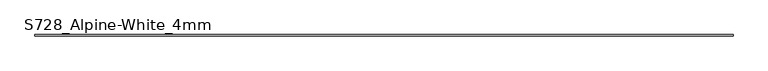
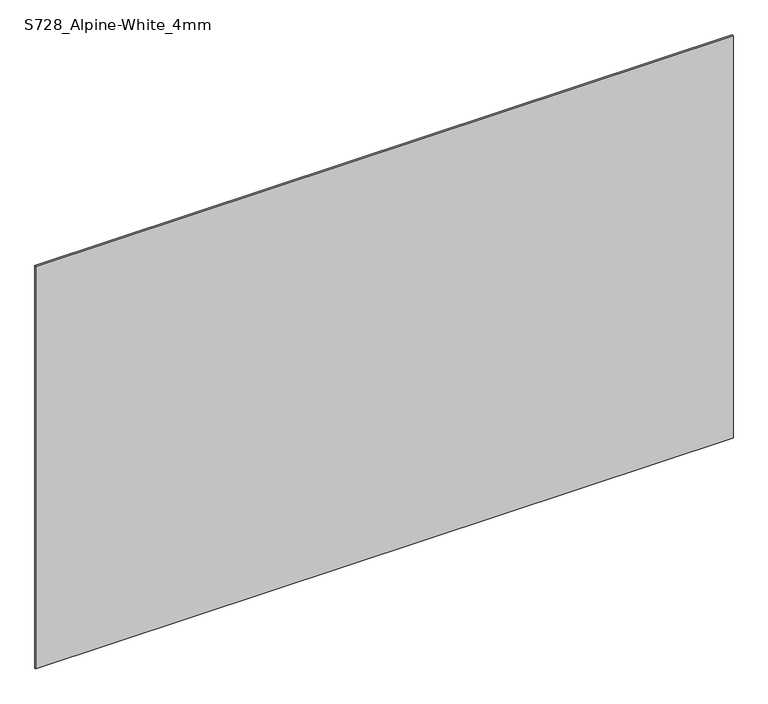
"""IFC4 building model written with IfcOpenShell, lengths in millimetres: plate geometry, Curtain-Panels_Outdoor-Material_HI-MACS_Solids : S728_Alpine-White_4mm."""

import ifcopenshell
import ifcopenshell.guid

model = None  # the IFC model being written
_history = None  # IfcOwnerHistory: only IFC2X3 demands one
_inside = {}  # id of a spatial element -> (the spatial element, [elements in it])
_under = {}  # id of a project, library or spatial element -> (it, [spatial elements below it])
_declared = {}  # id of a project -> (the project, [libraries it declares])
_typed = {}  # id of a type object -> (the type object, [elements of that type])
_made_of = {}  # id of a material, layer set ... -> (it, [elements and type objects made of it])


def new_model(schema):
    """Start an empty IFC model of exactly this schema.

    Asked for "IFC4X3", IfcOpenShell would pick the latest addendum, in which some entities
    have other attributes; the version numbers below select the first issue.
    IFC2X3 requires an IfcOwnerHistory on every rooted entity: one is made here for all.
    """
    global model, _history
    if schema == "IFC4X3":
        model = ifcopenshell.file(schema_version=(4, 3, 0, 0))
    else:
        model = ifcopenshell.file(schema=schema)
    _inside.clear()
    _under.clear()
    _declared.clear()
    _typed.clear()
    _made_of.clear()
    _history = None
    if model.schema == "IFC2X3":
        org = make("IfcOrganization", Name="unknown")
        user = make(
            "IfcPersonAndOrganization",
            ThePerson=make("IfcPerson", FamilyName="unknown"),
            TheOrganization=org,
        )
        app = make(
            "IfcApplication",
            ApplicationDeveloper=org,
            Version="unknown",
            ApplicationFullName="unknown",
            ApplicationIdentifier="unknown",
        )
        _history = make(
            "IfcOwnerHistory",
            OwningUser=user,
            OwningApplication=app,
            ChangeAction="ADDED",
            CreationDate=0,
        )
    return model


def make(cls, **values):
    """One entity of the class cls with the attributes given. An attribute that is None is left unset."""
    return model.create_entity(
        cls, **{name: value for name, value in values.items() if value is not None}
    )


def rooted(cls, **values):
    """An entity with a GlobalId (a new one), such as an element, a storey or a relation."""
    return make(cls, GlobalId=ifcopenshell.guid.new(), OwnerHistory=_history, **values)


def si_unit(unit_type, name, prefix=None):
    """IfcSIUnit, for example si_unit("LENGTHUNIT", "METRE", prefix="MILLI")."""
    return make("IfcSIUnit", UnitType=unit_type, Prefix=prefix, Name=name)


def assignment(units):
    """IfcUnitAssignment: the units of a project."""
    return None if units is None else make("IfcUnitAssignment", Units=units)


def point(xyz):
    """IfcCartesianPoint."""
    return None if xyz is None else make("IfcCartesianPoint", Coordinates=xyz)


def direction(xyz):
    """IfcDirection."""
    return None if xyz is None else make("IfcDirection", DirectionRatios=xyz)


def frame(location, z_axis=None, x_axis=None):
    """IfcAxis2Placement3D, a coordinate frame: its origin and axes. An axis left out is left unset."""
    return make(
        "IfcAxis2Placement3D",
        Location=point(location),
        Axis=direction(z_axis),
        RefDirection=direction(x_axis),
    )


def origin():
    """The frame at (0, 0, 0) with its axes left unset."""
    return frame((0.0, 0.0, 0.0))


def origin_with_axes():
    """The frame at (0, 0, 0) with the z axis (0, 0, 1) and the x axis (1, 0, 0) written out."""
    return frame((0.0, 0.0, 0.0), z_axis=(0.0, 0.0, 1.0), x_axis=(1.0, 0.0, 0.0))


def place(relative_to, where):
    """IfcLocalPlacement: puts the frame where relative to a parent placement (None: the world)."""
    return make(
        "IfcLocalPlacement", PlacementRelTo=relative_to, RelativePlacement=where
    )


def context(
    kind, dimensions, precision=None, world=None, true_north=None, identifier=None
):
    """IfcGeometricRepresentationContext, for example the 3D "Model" context."""
    return make(
        "IfcGeometricRepresentationContext",
        ContextIdentifier=identifier,
        ContextType=kind,
        CoordinateSpaceDimension=dimensions,
        Precision=precision,
        WorldCoordinateSystem=world,
        TrueNorth=true_north,
    )


def project(units=None, contexts=None):
    """IfcProject with its units and contexts."""
    return rooted(
        "IfcProject",
        Name="project",
        RepresentationContexts=contexts,
        UnitsInContext=assignment(units),
    )


def spatial(cls, under=None, at=None, **own):
    """A site, building, storey or space (cls), placed at a placement, below another one or the project."""
    s = rooted(cls, ObjectPlacement=at, **own)
    if under is not None:
        _under.setdefault(under.id(), (under, []))[1].append(s)
    return s


def polyline(points):
    """IfcPolyline through the points."""
    return make("IfcPolyline", Points=[point(p) for p in points])


def outline(outer, holes=None, kind="AREA"):
    """IfcArbitraryClosedProfileDef: a profile drawn as a closed curve; with holes, ...WithVoids."""
    if holes is None:
        return make("IfcArbitraryClosedProfileDef", ProfileType=kind, OuterCurve=outer)
    return make(
        "IfcArbitraryProfileDefWithVoids",
        ProfileType=kind,
        OuterCurve=outer,
        InnerCurves=holes,
    )


def extrude(swept, where, along, depth):
    """IfcExtrudedAreaSolid: the profile swept, set in the frame where, extruded along a direction by depth."""
    return make(
        "IfcExtrudedAreaSolid",
        SweptArea=swept,
        Position=where,
        ExtrudedDirection=direction(along),
        Depth=depth,
    )


def shape(context_of_items, identifier, shape_type, items):
    """IfcShapeRepresentation: the items that make up one representation, for example the "Body"."""
    return make(
        "IfcShapeRepresentation",
        ContextOfItems=context_of_items,
        RepresentationIdentifier=identifier,
        RepresentationType=shape_type,
        Items=items,
    )


def source(mapping_origin, context_of_items, identifier, shape_type, items):
    """IfcRepresentationMap: a shape defined once, which mapped items show again and again."""
    return make(
        "IfcRepresentationMap",
        MappingOrigin=mapping_origin,
        MappedRepresentation=shape(context_of_items, identifier, shape_type, items),
    )


def transform(
    local_origin,
    x_axis=None,
    y_axis=None,
    z_axis=None,
    scale=None,
    scale2=None,
    scale3=None,
    uniform=True,
):
    """IfcCartesianTransformationOperator3D, or its non-uniform kind. x_axis, y_axis, z_axis: its Axis1, 2, 3."""
    if uniform:
        return make(
            "IfcCartesianTransformationOperator3D",
            Axis1=direction(x_axis),
            Axis2=direction(y_axis),
            LocalOrigin=point(local_origin),
            Scale=scale,
            Axis3=direction(z_axis),
        )
    return make(
        "IfcCartesianTransformationOperator3DnonUniform",
        Axis1=direction(x_axis),
        Axis2=direction(y_axis),
        LocalOrigin=point(local_origin),
        Scale=scale,
        Axis3=direction(z_axis),
        Scale2=scale2,
        Scale3=scale3,
    )


def mapped(mapping_source, mapping_target):
    """IfcMappedItem: shows the shape of a source again, moved by a transform."""
    return make(
        "IfcMappedItem", MappingSource=mapping_source, MappingTarget=mapping_target
    )


def made_of(thing, what):
    """Note that an element or type object is made of a material, layer set ...; save() writes the relation."""
    if what is not None:
        _made_of.setdefault(what.id(), (what, []))[1].append(thing)
    return thing


def element(
    cls,
    number,
    at=None,
    inside=None,
    cuts=None,
    type_object=None,
    material=None,
    context=None,
    identifier="Body",
    shape_type=None,
    held_by="IfcProductDefinitionShape",
    body=None,
    shapes=None,
    **own,
):
    """One element of the class cls, such as IfcWall. Its Tag is "e" and its number.

    at: its placement. inside: the storey or other place that contains it. cuts: it is an
    opening in that element (IfcRelVoidsElement). A single representation is given by context,
    identifier, shape_type and body (its items); several are given by shapes. held_by: the class
    of the entity that holds the representations. save() writes the other relations.
    """
    e = rooted(cls, Tag="e%d" % number, ObjectPlacement=at, **own)
    if body is not None:
        shapes = [shape(context, identifier, shape_type, body)]
    if shapes is not None:
        e.Representation = make(held_by, Representations=shapes)
    if inside is not None:
        _inside.setdefault(inside.id(), (inside, []))[1].append(e)
    if cuts is not None:
        rooted(
            "IfcRelVoidsElement", RelatingBuildingElement=cuts, RelatedOpeningElement=e
        )
    if type_object is not None:
        _typed.setdefault(type_object.id(), (type_object, []))[1].append(e)
    return made_of(e, material)


def aggregate(whole, parts):
    """IfcRelAggregates: a whole, such as a stair, and the parts it consists of."""
    return rooted("IfcRelAggregates", RelatingObject=whole, RelatedObjects=parts)


def save(model, path):
    """Write the relations noted so far, then the file.

    IfcRelAggregates (storeys below a building ...), IfcRelContainedInSpatialStructure (elements
    in a storey), IfcRelDefinesByType, IfcRelAssociatesMaterial and IfcRelDeclares: one each for
    every whole, place, type object, material and project.
    """
    for whole, parts in _under.values():
        aggregate(whole, parts)
    for where, things in _inside.values():
        rooted(
            "IfcRelContainedInSpatialStructure",
            RelatedElements=things,
            RelatingStructure=where,
        )
    for kind, things in _typed.values():
        rooted("IfcRelDefinesByType", RelatedObjects=things, RelatingType=kind)
    for what, things in _made_of.values():
        rooted("IfcRelAssociatesMaterial", RelatedObjects=things, RelatingMaterial=what)
    for by, libraries in _declared.values():
        rooted("IfcRelDeclares", RelatingContext=by, RelatedDefinitions=libraries)
    model.write(path)


def s728_alpine_white_4mm_c15f5bff(model_context):
    return source(origin(), model_context, "Body", "SweptSolid", [
        extrude(outline(polyline([(1245.0, 2.0), (1245.0, -2.0), (-1245.0, -2.0), (-1245.0, 2.0), (1245.0, 2.0)])), origin_with_axes(), (0.0, 0.0, 1.0), 1520.0),
    ])


if __name__ == "__main__":
    model = new_model("IFC4")
    model_context = context("Model", 3, world=origin())
    ifc_project = project(units=[si_unit("LENGTHUNIT", "METRE", prefix="MILLI")], contexts=[model_context])
    site = spatial("IfcSite", under=ifc_project)
    building = spatial("IfcBuilding", under=site)
    placement = place(None, origin())
    s728_alpine_white_4mm_shape = s728_alpine_white_4mm_c15f5bff(model_context)
    element("IfcPlate", 1, ObjectType="Curtain-Panels_Outdoor-Material_HI-MACS_Solids : S728_Alpine-White_4mm", at=placement, inside=building, context=model_context, shape_type="MappedRepresentation", body=[
        mapped(s728_alpine_white_4mm_shape, transform((0.0, 0.0, 0.0), x_axis=(1.0, 0.0, 0.0), y_axis=(0.0, 1.0, 0.0), z_axis=(0.0, 0.0, 1.0))),
    ])
    save(model, "model.ifc")
